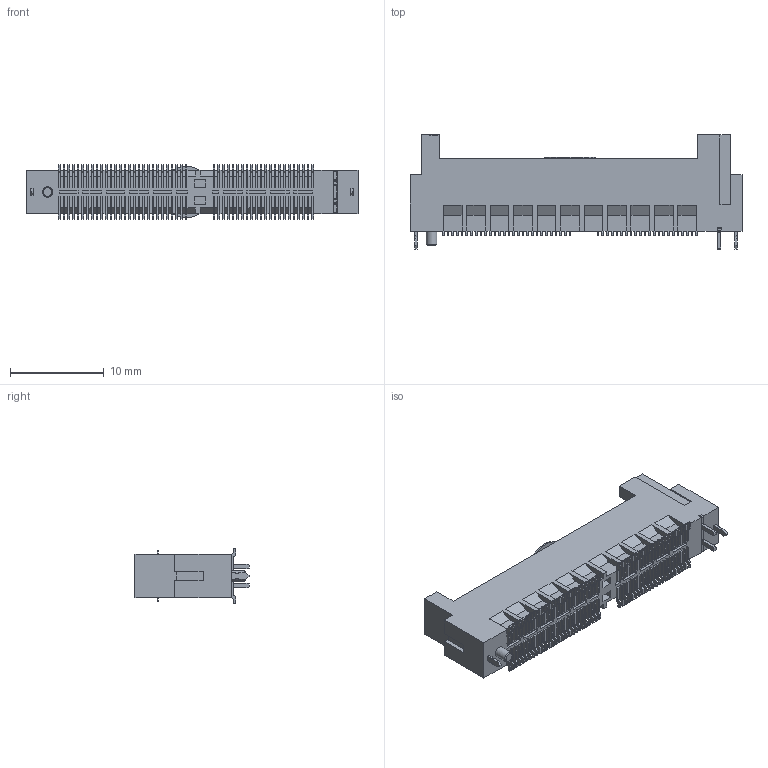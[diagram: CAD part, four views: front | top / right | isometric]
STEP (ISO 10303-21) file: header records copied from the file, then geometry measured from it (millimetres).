
FILE_DESCRIPTION(/* description */ ('STEP AP214'),/* implementation_level */ '2;1');
FILE_NAME(/* name */ 'MEC5-050-01-L-DV-W1-K-TR',/* time_stamp */ '2026-03-06T00:23:05+01:00',/* author */ ('License CC BY-ND 4.0'),/* organization */ ('CADENAS'),/* preprocessor_version */ 'ST-DEVELOPER v20',/* originating_system */ 'PARTsolutions',/* authorisation */ ' ');
FILE_SCHEMA (('AUTOMOTIVE_DESIGN {1 0 10303 214 3 1 1}'));
Products named in the file (7): MEC5-050-01-L-DV-W1-K-TR; MEC5-DV-50-01-W1-K_socket; MEC5-DV-28-01_pins; MEC5-DV-28-012_pins; MEC5-DV-22-01_pins; MEC5-DV-22-012_pins; K-DOT-.217-.313-.005
Assembly tree (6 placements, depth 2):
  MEC5-050-01-L-DV-W1-K-TR
    MEC5-DV-50-01-W1-K_socket
    MEC5-DV-28-01_pins
    MEC5-DV-28-012_pins
    MEC5-DV-22-01_pins
    MEC5-DV-22-012_pins
    K-DOT-.217-.313-.005
Bounding box: 35.38 x 12.15 x 5.86 mm (x, y, z)
Volume: 1097.6 mm3; surface area: 3471.8 mm2
Topology: 6 solids, 6 shells, 2296 faces, 6792 edges, 4526 vertices
Faces by surface type: plane 2083, cylinder 212, cone 1
Full cylindrical faces by diameter (mm): 1.12 x1, 5.5 x1
Entity records: 75611 total; most frequent: CARTESIAN_POINT 13616, ORIENTED_EDGE 13576, DIRECTION 11819, EDGE_CURVE 6788, LINE 6363, VECTOR 6363, VERTEX_POINT 4525, AXIS2_PLACEMENT_3D 2728
